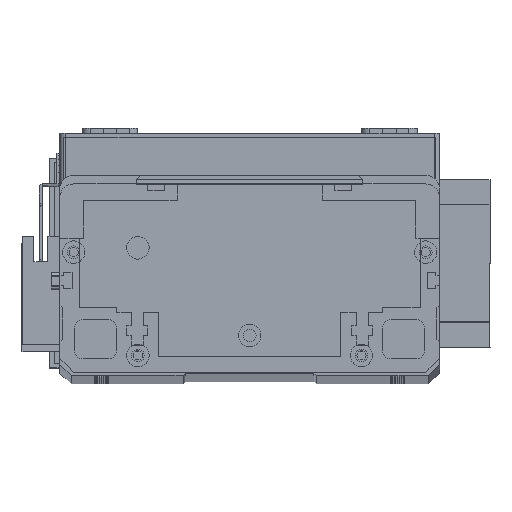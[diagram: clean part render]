
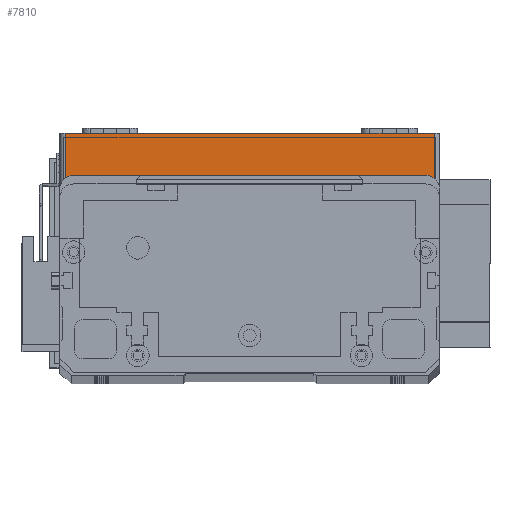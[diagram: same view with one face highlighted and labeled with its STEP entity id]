
A CAD part, top view. The second image highlights one B-rep face of the part: STEP entity #7810.
In plain terms, the highlighted planar face has unit normal (0, 0, 1) as drawn and (0, -1, 0) by its records, which use the part's own axes.
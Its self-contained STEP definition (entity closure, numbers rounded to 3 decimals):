
#480 = VECTOR ( 'NONE', #3129, 1000. ) ;
#856 = VERTEX_POINT ( 'NONE', #19626 ) ;
#1147 = AXIS2_PLACEMENT_3D ( 'NONE', #23537, #9781, #25840 ) ;
#1603 = LINE ( 'NONE', #14079, #19168 ) ;
#2391 = VERTEX_POINT ( 'NONE', #10003 ) ;
#3129 = DIRECTION ( 'NONE',  ( 0., 0., 1. ) ) ;
#3281 = CARTESIAN_POINT ( 'NONE',  ( 0., 0., 19.5 ) ) ;
#5197 = VERTEX_POINT ( 'NONE', #19807 ) ;
#5610 = DIRECTION ( 'NONE',  ( 1., 0., 0. ) ) ;
#6333 = EDGE_CURVE ( 'NONE', #20800, #2391, #13733, .T. ) ;
#6637 = LINE ( 'NONE', #9965, #480 ) ;
#6838 = FACE_OUTER_BOUND ( 'NONE', #21937, .T. ) ;
#7481 = PLANE ( 'NONE',  #1147 ) ;
#7810 = ADVANCED_FACE ( 'NONE', ( #6838 ), #7481, .F. ) ;
#9588 = DIRECTION ( 'NONE',  ( 1., 0., 0. ) ) ;
#9781 = DIRECTION ( 'NONE',  ( 0., 1., 0. ) ) ;
#9965 = CARTESIAN_POINT ( 'NONE',  ( 134., 0., 19.5 ) ) ;
#9992 = VECTOR ( 'NONE', #23567, 1000. ) ;
#10003 = CARTESIAN_POINT ( 'NONE',  ( 134., 0., 19.5 ) ) ;
#11453 = LINE ( 'NONE', #25874, #9992 ) ;
#12094 = CARTESIAN_POINT ( 'NONE',  ( 2., 0., 19.5 ) ) ;
#12130 = EDGE_CURVE ( 'NONE', #20800, #856, #11453, .T. ) ;
#13733 = LINE ( 'NONE', #3281, #25241 ) ;
#14079 = CARTESIAN_POINT ( 'NONE',  ( 0., 0., 0. ) ) ;
#14814 = EDGE_CURVE ( 'NONE', #856, #5197, #1603, .T. ) ;
#15455 = ORIENTED_EDGE ( 'NONE', *, *, #6333, .F. ) ;
#16652 = ORIENTED_EDGE ( 'NONE', *, *, #14814, .T. ) ;
#19063 = EDGE_CURVE ( 'NONE', #5197, #2391, #6637, .T. ) ;
#19168 = VECTOR ( 'NONE', #9588, 1000. ) ;
#19626 = CARTESIAN_POINT ( 'NONE',  ( 2., 0., 0. ) ) ;
#19807 = CARTESIAN_POINT ( 'NONE',  ( 134., 0., 0. ) ) ;
#20800 = VERTEX_POINT ( 'NONE', #12094 ) ;
#21937 = EDGE_LOOP ( 'NONE', ( #15455, #29609, #16652, #24659 ) ) ;
#23537 = CARTESIAN_POINT ( 'NONE',  ( 0., 0., 19.5 ) ) ;
#23567 = DIRECTION ( 'NONE',  ( 0., 0., -1. ) ) ;
#24659 = ORIENTED_EDGE ( 'NONE', *, *, #19063, .T. ) ;
#25241 = VECTOR ( 'NONE', #5610, 1000. ) ;
#25840 = DIRECTION ( 'NONE',  ( 0., 0., 1. ) ) ;
#25874 = CARTESIAN_POINT ( 'NONE',  ( 2., 0., 19.5 ) ) ;
#29609 = ORIENTED_EDGE ( 'NONE', *, *, #12130, .T. ) ;
